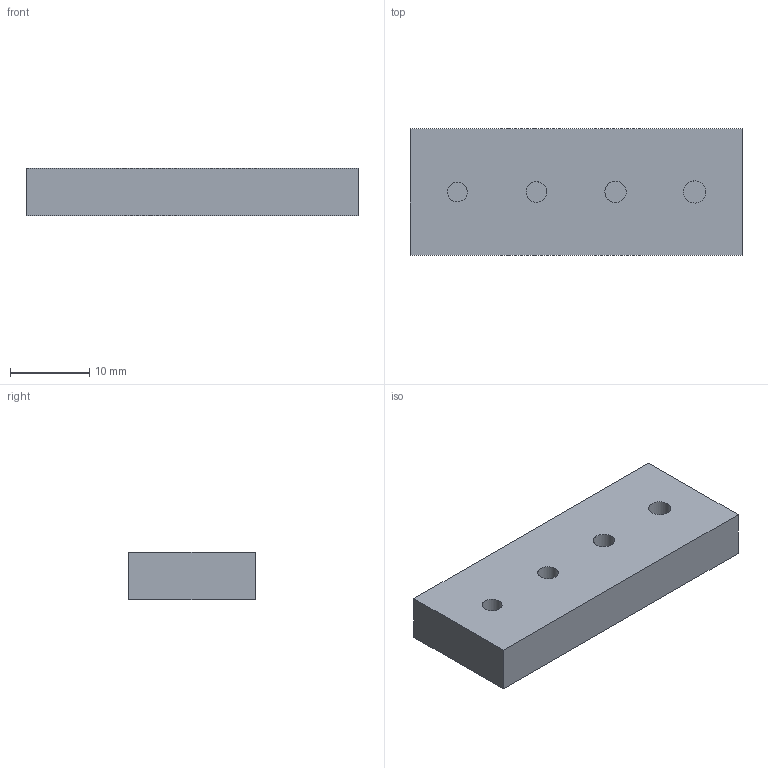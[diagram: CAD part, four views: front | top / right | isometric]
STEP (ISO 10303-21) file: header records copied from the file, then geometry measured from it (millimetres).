
FILE_DESCRIPTION(('FreeCAD Model'),'2;1');
FILE_NAME('Open CASCADE Shape Model','2026-11-16T15:21:26',('FreeCAD'),( 'FreeCAD'),'Open CASCADE STEP processor 7.9','FreeCAD','Unknown');
FILE_SCHEMA(('AUTOMOTIVE_DESIGN { 1 0 10303 214 1 1 1 1 }'));
Length unit declared in the file: millimetre
Products named in the file (1): Open CASCADE STEP translator 7.9 3
Bounding box: 42 x 16 x 6 mm (x, y, z)
Volume: 3920.6 mm3; surface area: 2206.9 mm2
Topology: 1 solids, 1 shells, 14 faces, 24 edges, 16 vertices
Faces by surface type: bspline 14
Entity records: 382 total; most frequent: CARTESIAN_POINT 201, ORIENTED_EDGE 48, EDGE_CURVE 24, FACE_BOUND 18, EDGE_LOOP 18, VERTEX_POINT 16, B_SPLINE_CURVE_WITH_KNOTS 16, ADVANCED_FACE 14
